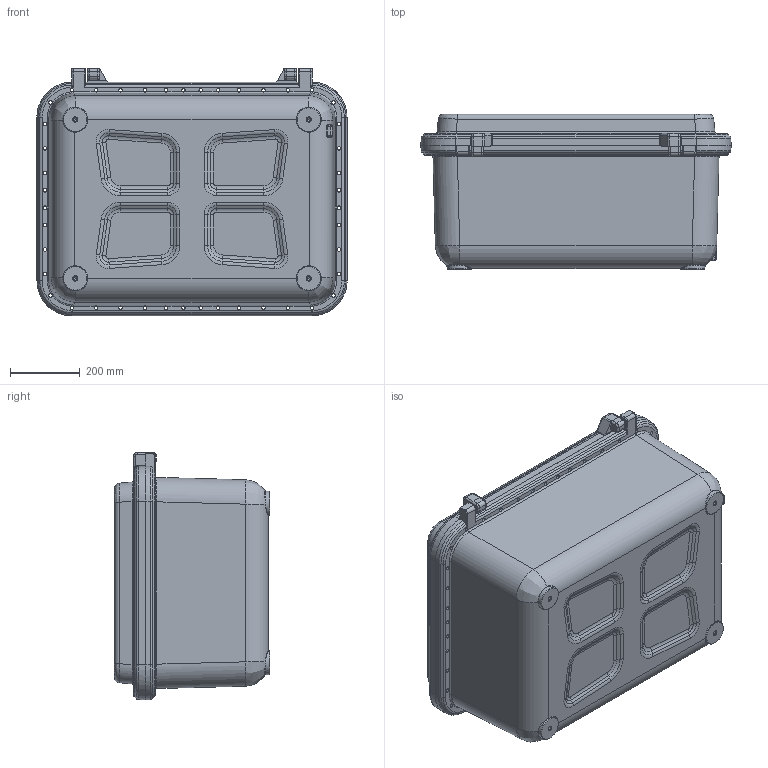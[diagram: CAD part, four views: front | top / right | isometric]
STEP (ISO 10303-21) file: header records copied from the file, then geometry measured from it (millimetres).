
FILE_DESCRIPTION(('STEP AP203'), '1');
FILE_NAME('Ñáîðêà_Êîðïóñ Â09-01', '', ('UNSPECIFIED'), ('UNSPECIFIED'), 'C3D Converter', 'C3D Toolkit', '');
FILE_SCHEMA(('CONFIG_CONTROL_DESIGN'));
Length unit declared in the file: millimetre
Products named in the file (3): В09-01; В09-02
Assembly tree (2 placements, depth 2):
  (unnamed)
    В09-01
    В09-02
Bounding box: 890 x 445 x 710.08 mm (x, y, z)
Volume: 58703579 mm3; surface area: 4443988.8 mm2
Topology: 2 solids, 2 shells, 1950 faces, 5133 edges, 3229 vertices
Faces by surface type: cylinder 1192, plane 364, bspline 252, torus 95, cone 47
Full cylindrical faces by diameter (mm): 10.106 x48, 13 x88, 26 x44
Entity records: 141388 total; most frequent: CARTESIAN_POINT 78487, DIRECTION 9877, ORIENTED_EDGE 9826, EDGE_CURVE 4913, AXIS2_PLACEMENT_3D 4089, VERTEX_POINT 3222, CIRCLE 2388, EDGE_LOOP 2381
